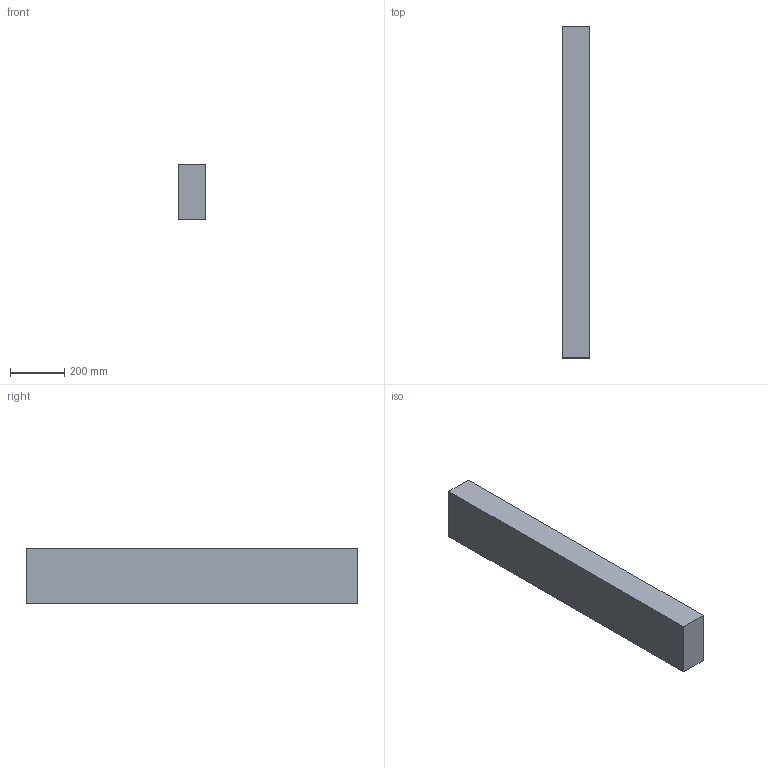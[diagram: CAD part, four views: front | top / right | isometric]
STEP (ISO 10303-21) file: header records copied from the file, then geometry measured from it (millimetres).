
FILE_DESCRIPTION(/* description */ (''),/* implementation_level */ '2;1');
FILE_NAME(/* name */ '4x8x48',/* time_stamp */ '2024-09-20T11:45:32-05:00',/* author */ (''),/* organization */ (''),/* preprocessor_version */ 'ST-DEVELOPER v19.2',/* originating_system */ 'Rhino 8.5',/* authorisation */ '');
FILE_SCHEMA (('CONFIG_CONTROL_DESIGN'));
Length unit declared in the file: inch
Products named in the file (1): Document
Bounding box: 101.6 x 1219.2 x 203.2 mm (x, y, z)
Volume: 25170530.3 mm3; surface area: 784514.6 mm2
Topology: 1 solids, 1 shells, 6 faces, 12 edges, 8 vertices
Faces by surface type: plane 6
Entity records: 226 total; most frequent: CARTESIAN_POINT 40, ORIENTED_EDGE 24, EDGE_CURVE 12, B_SPLINE_CURVE_WITH_KNOTS 12, DIRECTION 10, VERTEX_POINT 8, AXIS2_PLACEMENT_3D 8, ORGANIZATION 7
